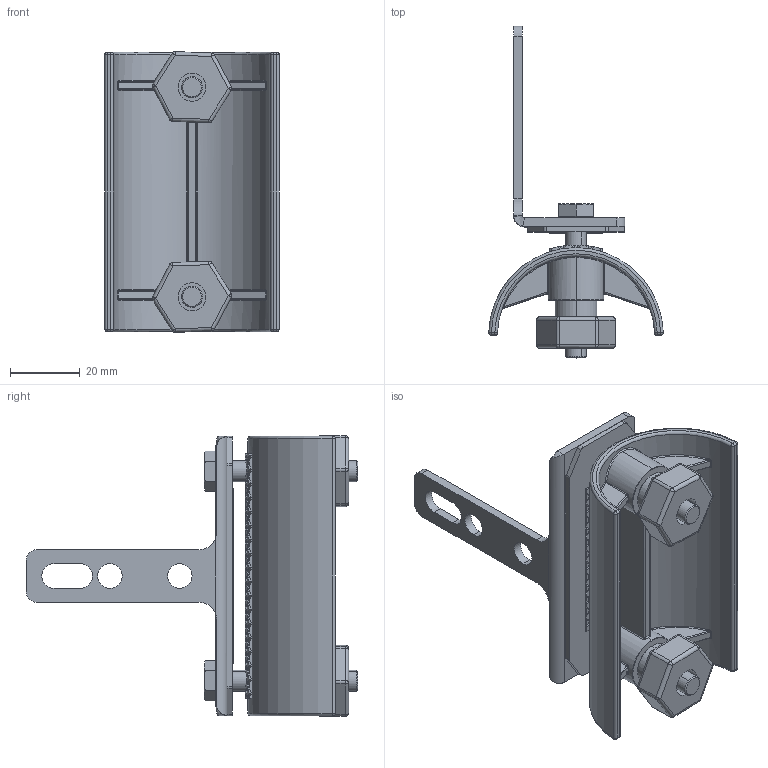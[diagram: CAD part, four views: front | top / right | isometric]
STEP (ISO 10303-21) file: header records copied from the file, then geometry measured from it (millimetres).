
FILE_DESCRIPTION (( 'STEP AP203' ), '1' );
FILE_NAME ('忑陬.STEP', '2022-02-10T03:28:17', ( '' ), ( '' ), 'SwSTEP 2.0', 'SolidWorks 2017', '' );
FILE_SCHEMA (( 'CONFIG_CONTROL_DESIGN' ));
Length unit declared in the file: millimetre
Products named in the file (6): 忑陬; 嘐隅盄擢標3; 电缆小车下支撑(网纹); 萇擢苤陬滅賑菜; hexagon head bolts--product grade c gb_GB_FASTENER_BOLT_HHBC M6X40-N; 嘐隅盄擢標
Assembly tree (7 placements, depth 2):
  忑陬
    嘐隅盄擢標
    hexagon head bolts--product grade c gb_GB_FASTENER_BOLT_HHBC M6X40-N  x2
    嘐隅盄擢標3  x2
    萇擢苤陬滅賑菜
    电缆小车下支撑(网纹)
Bounding box: 49.98 x 95 x 80.37 mm (x, y, z)
Volume: 41463.3 mm3; surface area: 33759.1 mm2
Topology: 7 solids, 7 shells, 1629 faces, 3662 edges, 2016 vertices
Faces by surface type: plane 643, bspline 598, cylinder 289, sphere 44, cone 28, torus 27
Entity records: 71781 total; most frequent: CARTESIAN_POINT 43484, ORIENTED_EDGE 6930, DIRECTION 4134, EDGE_CURVE 3465, VERTEX_POINT 1924, EDGE_LOOP 1581, LINE 1576, VECTOR 1576
